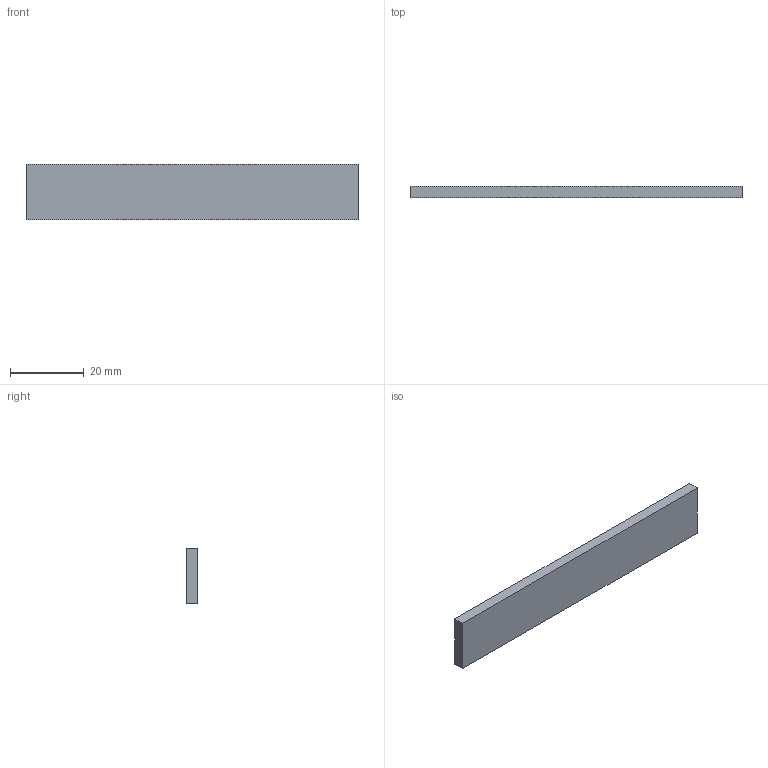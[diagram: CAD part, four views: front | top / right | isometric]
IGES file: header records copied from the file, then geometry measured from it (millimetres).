
Start section: C
Global section: file name: Pedal-TopEdge.igs; native system: By Siemens PLM Incorporated; preprocessor: XPlus GENERIC/IGES 18.0.17; author: Author; organization: Title; date: 20150807.150732; units: millimetre
Bounding box: 90 x 3 x 15 mm (x, y, z)
Surface area: 3330 mm2 (no closed solid volume)
Topology: 0 solids, 0 shells, 6 faces, 24 edges, 24 vertices
Faces by surface type: bspline 6
